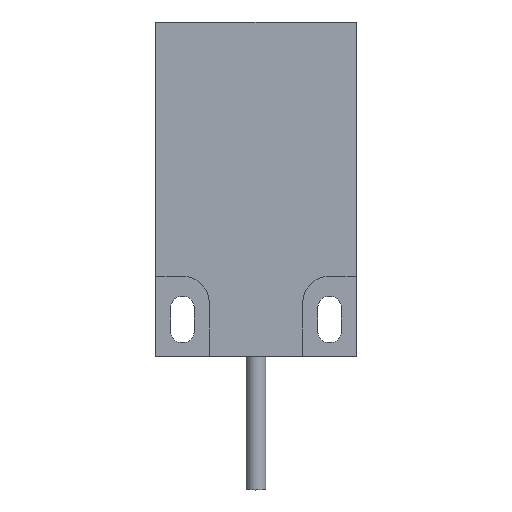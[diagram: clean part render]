
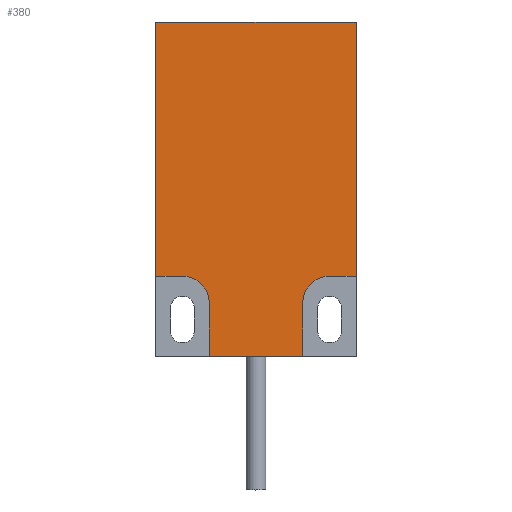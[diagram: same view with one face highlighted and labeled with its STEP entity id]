
A CAD part, top view. The second image highlights one B-rep face of the part: STEP entity #380.
In plain terms, the highlighted planar face has unit normal (0, 0, 1).
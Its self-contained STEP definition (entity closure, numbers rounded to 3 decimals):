
#106 = EDGE_CURVE('',#107,#109,#111,.T.);
#107 = VERTEX_POINT('',#108);
#108 = CARTESIAN_POINT('',(8.,0.,7.));
#109 = VERTEX_POINT('',#110);
#110 = CARTESIAN_POINT('',(8.,8.,7.));
#111 = LINE('',#112,#113);
#112 = CARTESIAN_POINT('',(8.,0.,7.));
#113 = VECTOR('',#114,1.);
#114 = DIRECTION('',(0.,1.,0.));
#137 = EDGE_CURVE('',#109,#138,#140,.T.);
#138 = VERTEX_POINT('',#139);
#139 = CARTESIAN_POINT('',(4.,12.,7.));
#140 = CIRCLE('',#141,4.);
#141 = AXIS2_PLACEMENT_3D('',#142,#143,#144);
#142 = CARTESIAN_POINT('',(4.,8.,7.));
#143 = DIRECTION('',(0.,-0.,1.));
#144 = DIRECTION('',(0.,1.,0.));
#180 = EDGE_CURVE('',#107,#181,#183,.T.);
#181 = VERTEX_POINT('',#182);
#182 = CARTESIAN_POINT('',(22.,0.,7.));
#183 = LINE('',#184,#185);
#184 = CARTESIAN_POINT('',(0.,0.,7.));
#185 = VECTOR('',#186,1.);
#186 = DIRECTION('',(1.,0.,0.));
#229 = EDGE_CURVE('',#138,#230,#232,.T.);
#230 = VERTEX_POINT('',#231);
#231 = CARTESIAN_POINT('',(0.,12.,7.));
#232 = LINE('',#233,#234);
#233 = CARTESIAN_POINT('',(8.,12.,7.));
#234 = VECTOR('',#235,1.);
#235 = DIRECTION('',(-1.,0.,0.));
#262 = VERTEX_POINT('',#263);
#263 = CARTESIAN_POINT('',(0.,50.,7.));
#269 = EDGE_CURVE('',#262,#230,#270,.T.);
#270 = LINE('',#271,#272);
#271 = CARTESIAN_POINT('',(0.,50.,7.));
#272 = VECTOR('',#273,1.);
#273 = DIRECTION('',(0.,-1.,0.));
#380 = ADVANCED_FACE('',(#381),#427,.T.);
#381 = FACE_BOUND('',#382,.T.);
#382 = EDGE_LOOP('',(#383,#384,#385,#393,#402,#410,#418,#424,#425,#426)
  );
#383 = ORIENTED_EDGE('',*,*,#106,.F.);
#384 = ORIENTED_EDGE('',*,*,#180,.T.);
#385 = ORIENTED_EDGE('',*,*,#386,.T.);
#386 = EDGE_CURVE('',#181,#387,#389,.T.);
#387 = VERTEX_POINT('',#388);
#388 = CARTESIAN_POINT('',(22.,8.,7.));
#389 = LINE('',#390,#391);
#390 = CARTESIAN_POINT('',(22.,0.,7.));
#391 = VECTOR('',#392,1.);
#392 = DIRECTION('',(0.,1.,0.));
#393 = ORIENTED_EDGE('',*,*,#394,.T.);
#394 = EDGE_CURVE('',#387,#395,#397,.T.);
#395 = VERTEX_POINT('',#396);
#396 = CARTESIAN_POINT('',(26.,12.,7.));
#397 = CIRCLE('',#398,4.);
#398 = AXIS2_PLACEMENT_3D('',#399,#400,#401);
#399 = CARTESIAN_POINT('',(26.,8.,7.));
#400 = DIRECTION('',(0.,0.,-1.));
#401 = DIRECTION('',(0.,1.,0.));
#402 = ORIENTED_EDGE('',*,*,#403,.T.);
#403 = EDGE_CURVE('',#395,#404,#406,.T.);
#404 = VERTEX_POINT('',#405);
#405 = CARTESIAN_POINT('',(30.,12.,7.));
#406 = LINE('',#407,#408);
#407 = CARTESIAN_POINT('',(22.,12.,7.));
#408 = VECTOR('',#409,1.);
#409 = DIRECTION('',(1.,0.,0.));
#410 = ORIENTED_EDGE('',*,*,#411,.T.);
#411 = EDGE_CURVE('',#404,#412,#414,.T.);
#412 = VERTEX_POINT('',#413);
#413 = CARTESIAN_POINT('',(30.,50.,7.));
#414 = LINE('',#415,#416);
#415 = CARTESIAN_POINT('',(30.,0.,7.));
#416 = VECTOR('',#417,1.);
#417 = DIRECTION('',(0.,1.,0.));
#418 = ORIENTED_EDGE('',*,*,#419,.T.);
#419 = EDGE_CURVE('',#412,#262,#420,.T.);
#420 = LINE('',#421,#422);
#421 = CARTESIAN_POINT('',(30.,50.,7.));
#422 = VECTOR('',#423,1.);
#423 = DIRECTION('',(-1.,0.,0.));
#424 = ORIENTED_EDGE('',*,*,#269,.T.);
#425 = ORIENTED_EDGE('',*,*,#229,.F.);
#426 = ORIENTED_EDGE('',*,*,#137,.F.);
#427 = PLANE('',#428);
#428 = AXIS2_PLACEMENT_3D('',#429,#430,#431);
#429 = CARTESIAN_POINT('',(15.,25.,7.));
#430 = DIRECTION('',(0.,0.,1.));
#431 = DIRECTION('',(1.,0.,0.));
